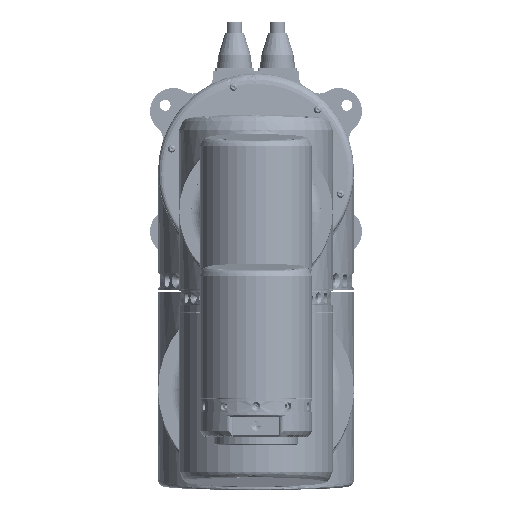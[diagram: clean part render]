
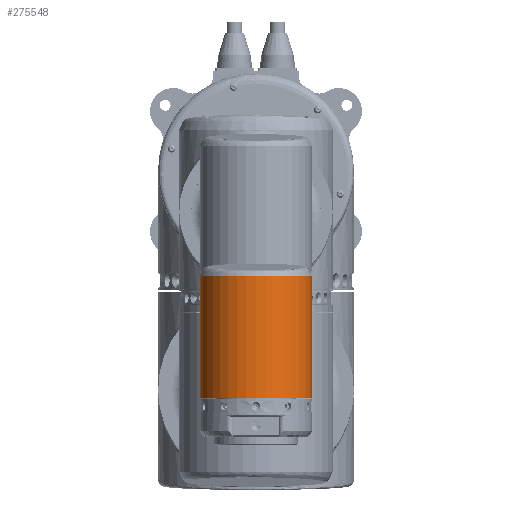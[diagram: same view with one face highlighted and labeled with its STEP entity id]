
A CAD part, front view. The second image highlights one B-rep face of the part: STEP entity #275548.
In plain terms, the highlighted cylindrical face has radius 42.5 mm (diameter 85 mm), a partial arc.
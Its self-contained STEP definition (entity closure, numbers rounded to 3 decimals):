
#31 = ORIENTED_EDGE ( 'NONE', *, *, #44419, .F. ) ;
#1284 = CARTESIAN_POINT ( 'NONE',  ( -42.5, 0., 42.5 ) ) ;
#6781 = LINE ( 'NONE', #229810, #117046 ) ;
#10282 = FACE_OUTER_BOUND ( 'NONE', #90097, .T. ) ;
#16827 = VERTEX_POINT ( 'NONE', #139951 ) ;
#27270 = ORIENTED_EDGE ( 'NONE', *, *, #274751, .T. ) ;
#32899 = DIRECTION ( 'NONE',  ( 0., 0., -1. ) ) ;
#36885 = DIRECTION ( 'NONE',  ( 0., 0., -1. ) ) ;
#44419 = EDGE_CURVE ( 'NONE', #16827, #156075, #155172, .T. ) ;
#48699 = CARTESIAN_POINT ( 'NONE',  ( -42.5, 0., 92. ) ) ;
#55022 = VECTOR ( 'NONE', #198046, 1000. ) ;
#56464 = EDGE_CURVE ( 'NONE', #69510, #156075, #109259, .T. ) ;
#58870 = AXIS2_PLACEMENT_3D ( 'NONE', #97986, #162340, #98878 ) ;
#64689 = ORIENTED_EDGE ( 'NONE', *, *, #238067, .F. ) ;
#67420 = DIRECTION ( 'NONE',  ( 0., 0., 1. ) ) ;
#69510 = VERTEX_POINT ( 'NONE', #276694 ) ;
#71004 = VERTEX_POINT ( 'NONE', #1284 ) ;
#74893 = DIRECTION ( 'NONE',  ( -1., 0., 0. ) ) ;
#80693 = CIRCLE ( 'NONE', #178684, 42.5 ) ;
#81461 = AXIS2_PLACEMENT_3D ( 'NONE', #174834, #67420, #216848 ) ;
#82443 = CARTESIAN_POINT ( 'NONE',  ( 42.5, 0., 92. ) ) ;
#83362 = DIRECTION ( 'NONE',  ( 0., 0., -1. ) ) ;
#90097 = EDGE_LOOP ( 'NONE', ( #64689, #27270, #192106, #155727, #211866, #31 ) ) ;
#91577 = EDGE_CURVE ( 'NONE', #71004, #69510, #6781, .T. ) ;
#91750 = VECTOR ( 'NONE', #36885, 1000. ) ;
#96662 = CARTESIAN_POINT ( 'NONE',  ( 42.5, 0., 0. ) ) ;
#97986 = CARTESIAN_POINT ( 'NONE',  ( 0., 0., 92. ) ) ;
#98878 = DIRECTION ( 'NONE',  ( -1., 0., 0. ) ) ;
#109259 = CIRCLE ( 'NONE', #81461, 42.5 ) ;
#117046 = VECTOR ( 'NONE', #230720, 1000. ) ;
#139951 = CARTESIAN_POINT ( 'NONE',  ( 42.5, 0., 42.5 ) ) ;
#141771 = LINE ( 'NONE', #82443, #215221 ) ;
#147269 = CARTESIAN_POINT ( 'NONE',  ( 42.5, 0., 92. ) ) ;
#155172 = LINE ( 'NONE', #167493, #91750 ) ;
#155727 = ORIENTED_EDGE ( 'NONE', *, *, #91577, .T. ) ;
#156075 = VERTEX_POINT ( 'NONE', #96662 ) ;
#160486 = CYLINDRICAL_SURFACE ( 'NONE', #58870, 42.5 ) ;
#162340 = DIRECTION ( 'NONE',  ( 0., 0., -1. ) ) ;
#167493 = CARTESIAN_POINT ( 'NONE',  ( 42.5, 0., 92. ) ) ;
#174834 = CARTESIAN_POINT ( 'NONE',  ( 0., 0., 0. ) ) ;
#178684 = AXIS2_PLACEMENT_3D ( 'NONE', #221501, #32899, #74893 ) ;
#192106 = ORIENTED_EDGE ( 'NONE', *, *, #238309, .T. ) ;
#198046 = DIRECTION ( 'NONE',  ( 0., 0., -1. ) ) ;
#200805 = VERTEX_POINT ( 'NONE', #147269 ) ;
#205334 = LINE ( 'NONE', #48699, #55022 ) ;
#211866 = ORIENTED_EDGE ( 'NONE', *, *, #56464, .T. ) ;
#215221 = VECTOR ( 'NONE', #83362, 1000. ) ;
#216848 = DIRECTION ( 'NONE',  ( -1., 0., 0. ) ) ;
#221501 = CARTESIAN_POINT ( 'NONE',  ( 0., 0., 92. ) ) ;
#229810 = CARTESIAN_POINT ( 'NONE',  ( -42.5, 0., 92. ) ) ;
#230720 = DIRECTION ( 'NONE',  ( 0., 0., -1. ) ) ;
#238067 = EDGE_CURVE ( 'NONE', #200805, #16827, #141771, .T. ) ;
#238309 = EDGE_CURVE ( 'NONE', #250691, #71004, #205334, .T. ) ;
#246851 = CARTESIAN_POINT ( 'NONE',  ( -42.5, 0., 92. ) ) ;
#250691 = VERTEX_POINT ( 'NONE', #246851 ) ;
#274751 = EDGE_CURVE ( 'NONE', #200805, #250691, #80693, .T. ) ;
#275548 = ADVANCED_FACE ( 'NONE', ( #10282 ), #160486, .T. ) ;
#276694 = CARTESIAN_POINT ( 'NONE',  ( -42.5, 0., 0. ) ) ;
